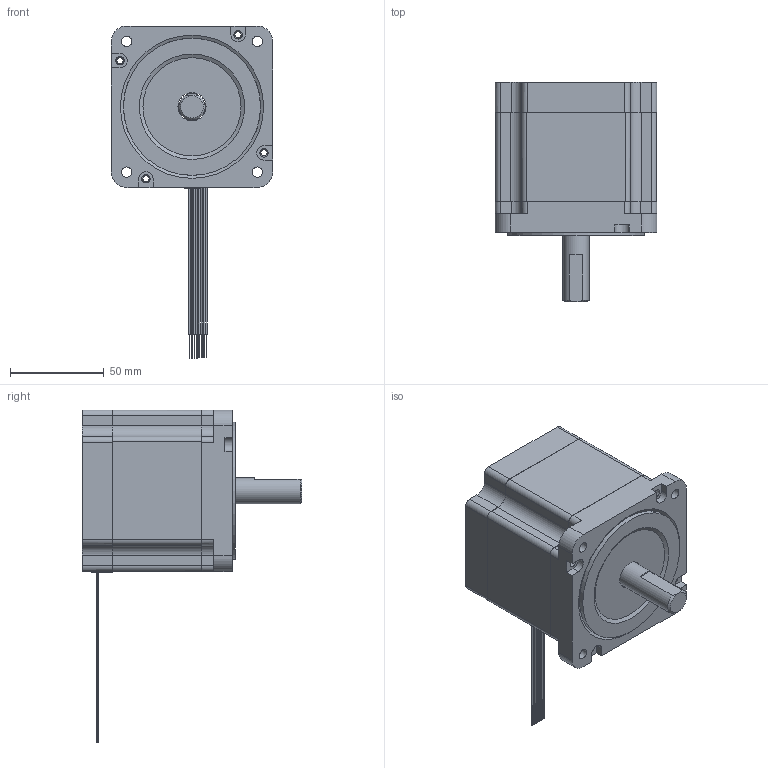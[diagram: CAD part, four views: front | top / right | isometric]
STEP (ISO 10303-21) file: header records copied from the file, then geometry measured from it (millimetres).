
FILE_DESCRIPTION( ('This file contains a STEP AP42 implementation' ,'as created by ZW3D STEP Interface translator.' ,'') ,'2;1' );
FILE_NAME( '34H2080-45-4A-XXX.stp' ,'26 115.141447', (''), ('ZWCAD Software Co.'), 'Version 1.0', 'ZW3D to STEP translator', '' );
FILE_SCHEMA(('AUTOMOTIVE_DESIGN { 1 0 10303 214 1 1 1 1 }'));
Length unit declared in the file: millimetre
Products named in the file (1): 0
Bounding box: 86 x 117 x 176.75 mm (x, y, z)
Volume: 214499.5 mm3; surface area: 90792.4 mm2
Topology: 6 solids, 6 shells, 302 faces, 742 edges, 487 vertices
Faces by surface type: plane 164, cylinder 134, cone 4
Full cylindrical faces by diameter (mm): 3.3 x4, 4.5 x4, 5.08 x4, 5.5 x4, 14 x1, 15 x2, 36 x1, 42 x2, 52.27 x1, 52.273 x1, 73 x1, 78.679 x1, 80 x2
Entity records: 9357 total; most frequent: DIRECTION 1626, CARTESIAN_POINT 1589, ORIENTED_EDGE 1484, EDGE_CURVE 742, AXIS2_PLACEMENT_3D 604, VERTEX_POINT 487, VECTOR 418, LINE 418
